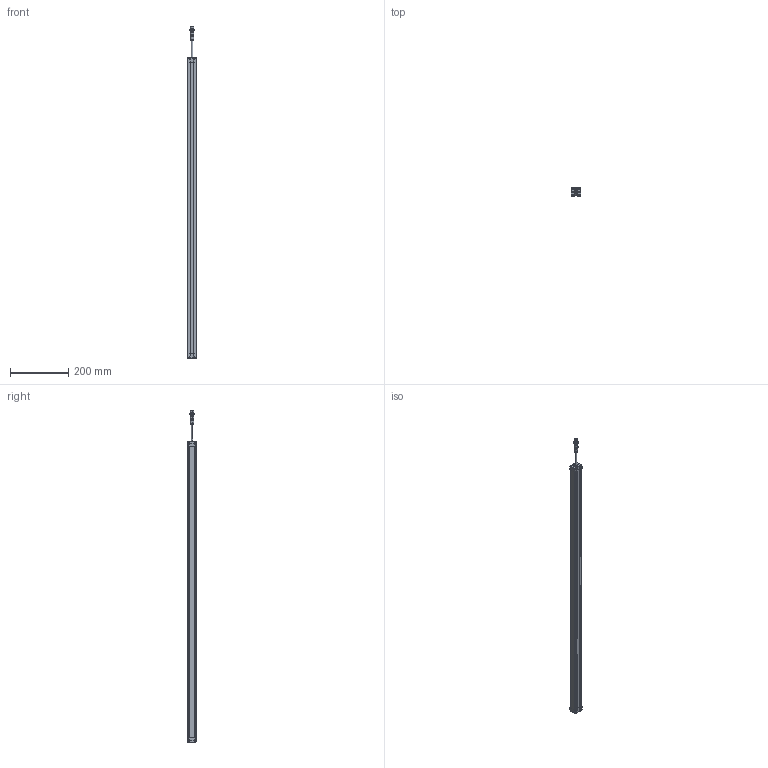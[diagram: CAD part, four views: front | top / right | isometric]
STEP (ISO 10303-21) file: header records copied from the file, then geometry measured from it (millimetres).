
FILE_DESCRIPTION((''),'2;1');
FILE_NAME('SMT1-CGQ_ASM','2025-08-08T08:36:31',('Administrator'),(''),'CREO PARAMETRIC BY PTC INC, 2016510','CREO PARAMETRIC BY PTC INC, 2016510','');
FILE_SCHEMA(('CONFIG_CONTROL_DESIGN'));
Length unit declared in the file: millimetre
Products named in the file (7): SMT1-XINGCAI-V1; SMT1-SDG-V1; SMT1-XDG-V1; M12-CHATOU; ST3X18; CT4-LVGUANGBAN; SMT1-CGQ_ASM
Assembly tree (13 placements, depth 2):
  SMT1-CGQ_ASM
    SMT1-XINGCAI-V1
    SMT1-SDG-V1
    SMT1-XDG-V1
    M12-CHATOU
    ST3X18  x8
    CT4-LVGUANGBAN
Bounding box: 33 x 28.02 x 1139.5 mm (x, y, z)
Volume: 798665.5 mm3; surface area: 257667.9 mm2
Topology: 13 solids, 13 shells, 712 faces, 1868 edges, 1200 vertices
Faces by surface type: plane 382, cylinder 184, extrusion 86, sphere 32, cone 20, bspline 8
Entity records: 18128 total; most frequent: CARTESIAN_POINT 4347, ORIENTED_EDGE 2916, DIRECTION 2580, EDGE_CURVE 1458, VECTOR 1036, VERTEX_POINT 955, LINE 950, AXIS2_PLACEMENT_3D 772
